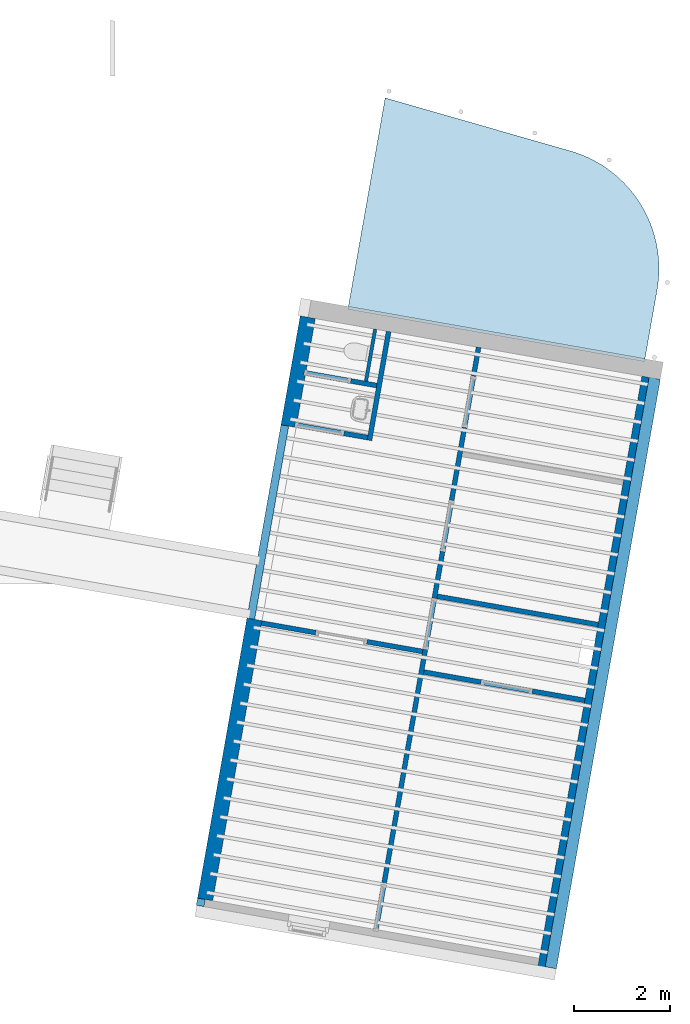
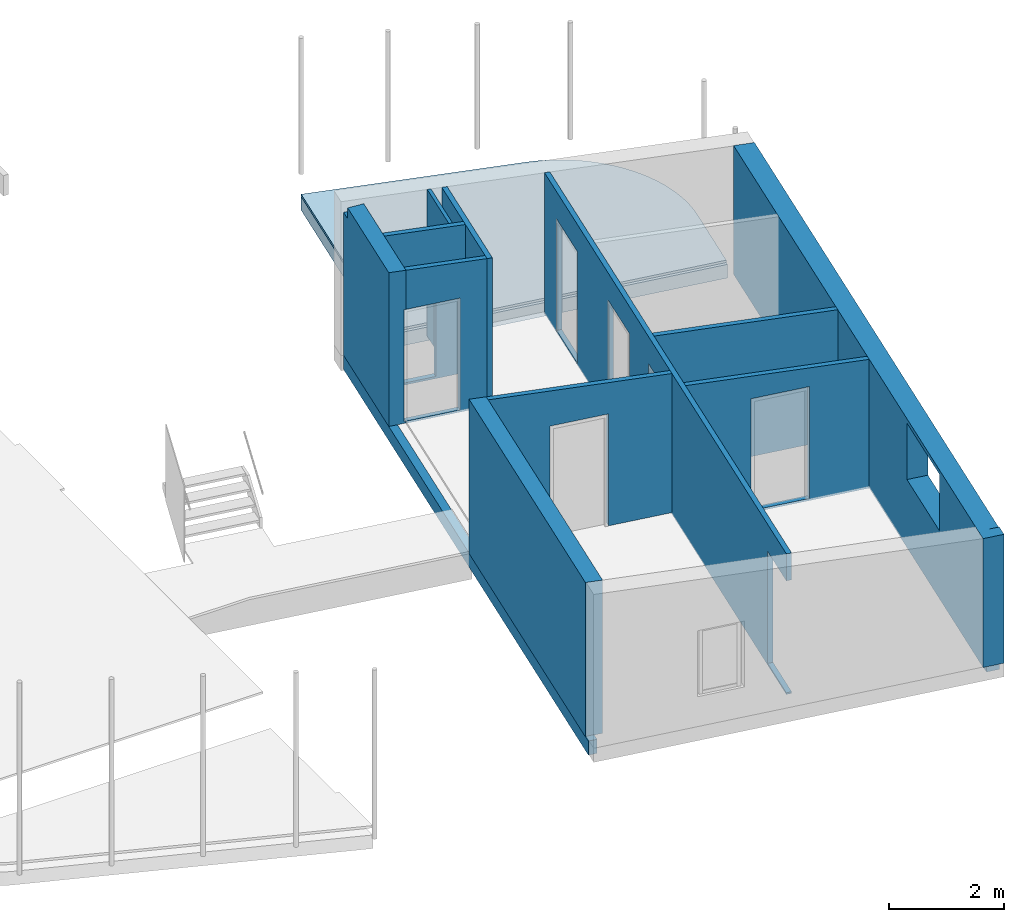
# One storey, part 3 of 7: 13 walls, 2 slabs, 18 openings.
"""IFC2X3 building model written with IfcOpenShell, lengths in millimetres."""

from ifc_helpers import new_model, entity, si_unit, converted_unit, derived_unit, direction, frame, frame_2d, origin, origin_2d_with_axis, place, context, subcontext, project, spatial, polyline, circle_curve, parameter, trimmed, segment, composite_curve, rectangle, outline, extrude, clip, bounded_halfspace, material, layer, layer_set, layer_usage, type_object, element, save


model = new_model("IFC2X3")

# Units and contexts
model_context = context("Model", 3, precision=0.01, world=origin(), true_north=direction((6.12303176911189e-17, 1.0)))
body_context = subcontext(model_context, "Body", "Model", "MODEL_VIEW")
ifc_project = project(units=[si_unit("LENGTHUNIT", "METRE", prefix="MILLI"), si_unit("AREAUNIT", "SQUARE_METRE"), si_unit("VOLUMEUNIT", "CUBIC_METRE"), converted_unit("PLANEANGLEUNIT", "DEGREE", entity("IfcRatioMeasure", 0.0174532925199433), si_unit("PLANEANGLEUNIT", "RADIAN"), dimensions=[0, 0, 0, 0, 0, 0, 0]), si_unit("MASSUNIT", "GRAM", prefix="KILO"), derived_unit("MASSDENSITYUNIT", [(si_unit("MASSUNIT", "GRAM", prefix="KILO"), 1), (si_unit("LENGTHUNIT", "METRE"), -3)]), derived_unit("MOMENTOFINERTIAUNIT", [(si_unit("LENGTHUNIT", "METRE"), 4)]), si_unit("TIMEUNIT", "SECOND"), si_unit("FREQUENCYUNIT", "HERTZ"), si_unit("THERMODYNAMICTEMPERATUREUNIT", "DEGREE_CELSIUS"), derived_unit("THERMALTRANSMITTANCEUNIT", [(si_unit("MASSUNIT", "GRAM", prefix="KILO"), 1), (si_unit("THERMODYNAMICTEMPERATUREUNIT", "KELVIN"), -1), (si_unit("TIMEUNIT", "SECOND"), -3)]), derived_unit("VOLUMETRICFLOWRATEUNIT", [(si_unit("LENGTHUNIT", "METRE"), 3), (si_unit("TIMEUNIT", "SECOND"), -1)]), si_unit("ELECTRICCURRENTUNIT", "AMPERE"), si_unit("ELECTRICVOLTAGEUNIT", "VOLT"), si_unit("POWERUNIT", "WATT"), si_unit("FORCEUNIT", "NEWTON", prefix="KILO"), si_unit("ILLUMINANCEUNIT", "LUX"), si_unit("LUMINOUSFLUXUNIT", "LUMEN"), si_unit("LUMINOUSINTENSITYUNIT", "CANDELA"), derived_unit("USERDEFINED", [(si_unit("MASSUNIT", "GRAM", prefix="KILO"), -1), (si_unit("LENGTHUNIT", "METRE"), -2), (si_unit("TIMEUNIT", "SECOND"), 3), (si_unit("LUMINOUSFLUXUNIT", "LUMEN"), 1)]), derived_unit("LINEARVELOCITYUNIT", [(si_unit("LENGTHUNIT", "METRE"), 1), (si_unit("TIMEUNIT", "SECOND"), -1)]), si_unit("PRESSUREUNIT", "PASCAL"), derived_unit("USERDEFINED", [(si_unit("LENGTHUNIT", "METRE"), -2), (si_unit("MASSUNIT", "GRAM", prefix="KILO"), 1), (si_unit("TIMEUNIT", "SECOND"), -2)]), derived_unit("LINEARFORCEUNIT", [(si_unit("MASSUNIT", "GRAM", prefix="KILO"), 1), (si_unit("LENGTHUNIT", "METRE"), 1), (si_unit("TIMEUNIT", "SECOND"), -2), (si_unit("LENGTHUNIT", "METRE"), -1)]), derived_unit("PLANARFORCEUNIT", [(si_unit("MASSUNIT", "GRAM", prefix="KILO"), 1), (si_unit("LENGTHUNIT", "METRE"), 1), (si_unit("TIMEUNIT", "SECOND"), -2), (si_unit("LENGTHUNIT", "METRE"), -2)])], contexts=[model_context])

# Site, building, storey
site_placement = place(None, origin())
site = spatial("IfcSite", under=ifc_project, at=site_placement, Name="<Kadaster Gemeente>;<Kadaster nummer>;<Kadaster sectie>", CompositionType="ELEMENT")
building_placement = place(site_placement, origin())
building = spatial("IfcBuilding", under=site, at=building_placement, Name="JRCZ Middelburg", CompositionType="ELEMENT")
storey_placement = place(building_placement, frame((0.0, 0.0, 3000.0)))
storey = spatial("IfcBuildingStorey", under=building, at=storey_placement, Name="01 eerste verdieping", CompositionType="ELEMENT", Elevation=3000.0)

# Slabs
ifc_material_1 = material(Name="ISR_Multiplex")
ifc_layer_1 = layer(ifc_material_1, 18.0)
ifc_material_2 = material(Name="RBM_i2_hout_vuren_gen")
ifc_layer_2 = layer(ifc_material_2, 271.0)
ifc_layer_set_1 = layer_set([ifc_layer_1, ifc_layer_2], Name="Floor:RBM_23_FL_balklaag dak_71x271, h.o.h. 400")
ifc_layer_usage_1 = layer_usage(ifc_layer_set_1, "AXIS3", "POSITIVE", 0.0)
slab_type_1 = type_object("IfcSlabType", Name="Floor:RBM_23_FL_balklaag dak_71x271, h.o.h. 400", PredefinedType="FLOOR", material=ifc_layer_set_1)
slab_1_placement = place(storey_placement, origin())
element("IfcSlab", 1, at=slab_1_placement, inside=storey, type_object=slab_type_1, material=ifc_layer_usage_1, Name="Floor:RBM_23_FL_balklaag dak_71x271, h.o.h. 400", ObjectType="Floor:RBM_23_FL_balklaag dak_71x271, h.o.h. 400", PredefinedType="FLOOR", context=body_context, shape_type="SweptSolid", body=[
    extrude(outline(composite_curve([segment(polyline([(-3542.44104935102, -2102.1862902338), (465.190872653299, -2102.1862902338)]), True, "CONTINUOUS"), segment(trimmed(circle_curve(frame_2d((465.190872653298, 443.651935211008), x_axis=(0.0, -1.0)), 2545.8382254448), [parameter(0.0)], [parameter(84.0)], True, "PARAMETER"), True, "CONTINUOUS"), segment(polyline([(2997.08272992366, 177.539377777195), (3155.6241373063, 1685.9601087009)]), True, "CONTINUOUS"), segment(polyline([(3155.6241373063, 1685.9601087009), (-3075.45669053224, 2340.87309398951)]), True, "CONTINUOUS"), segment(polyline([(-3075.45669053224, 2340.87309398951), (-3542.44104935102, -2102.1862902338)]), True, "CONTINUOUS")], self_intersect=False)), frame((28480.270626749, 20728.8070958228, -35.0), z_axis=(0.0, 0.0, -1.0), x_axis=(0.961261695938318, -0.275637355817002, 0.0)), (0.0, 0.0, 1.0), 289.0),
])
ifc_material_3 = material(Name="RBM_n7_dakisolatie_gen")
ifc_layer_3 = layer(ifc_material_3, 50.0)
ifc_layer_set_2 = layer_set([ifc_layer_3], Name="Floor:RBM_23_FL_dakisolatie 30 mm")
ifc_layer_usage_2 = layer_usage(ifc_layer_set_2, "AXIS3", "POSITIVE", 0.0)
slab_type_2 = type_object("IfcSlabType", Name="Floor:RBM_23_FL_dakisolatie 30 mm", PredefinedType="FLOOR", material=ifc_layer_set_2)
slab_2_placement = place(storey_placement, origin())
element("IfcSlab", 2, at=slab_2_placement, inside=storey, type_object=slab_type_2, material=ifc_layer_usage_2, Name="Floor:RBM_23_FL_dakisolatie 30 mm", ObjectType="Floor:RBM_23_FL_dakisolatie 30 mm", PredefinedType="FLOOR", context=body_context, shape_type="SweptSolid", body=[
    extrude(outline(composite_curve([segment(polyline([(-3539.93236638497, -2078.31776464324), (467.699555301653, -2078.31776464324)]), True, "CONTINUOUS"), segment(trimmed(circle_curve(frame_2d((467.699555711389, 467.520460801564), x_axis=(0.0, -1.0)), 2545.8382254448), [parameter(0.0)], [parameter(83.9999999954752)], True, "PARAMETER"), True, "CONTINUOUS"), segment(polyline([(2999.59141291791, 201.407902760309), (3151.86111275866, 1650.15732013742)]), True, "CONTINUOUS"), segment(polyline([(3151.86111275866, 1650.15732013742), (-3079.21971459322, 2305.07030638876)]), True, "CONTINUOUS"), segment(polyline([(-3079.21971459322, 2305.07030638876), (-3539.93236638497, -2078.31776464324)]), True, "CONTINUOUS")], self_intersect=False)), frame((28484.4381831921, 20752.4424820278, 15.0), z_axis=(0.0, 0.0, -1.0), x_axis=(0.961261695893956, -0.275637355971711, 0.0)), (0.0, 0.0, 1.0), 50.0),
])

# Wall, openings
ifc_material_4 = material(Name="RBM_f7_gips_beplating wand")
ifc_layer_4 = layer(ifc_material_4, 12.5)
ifc_material_5 = material(Name="RBM_i4_multiplex_beplating")
ifc_layer_5 = layer(ifc_material_5, 18.0)
ifc_material_6 = material(Name="RBM_n7_isolatie_hsb_270")
ifc_layer_6 = layer(ifc_material_6, 270.0)
ifc_layer_7 = layer(ifc_material_5, 18.0)
ifc_layer_set_3 = layer_set([ifc_layer_4, ifc_layer_5, ifc_layer_6, ifc_layer_7], Name="Basic Wall:22_hsb_binnenwand_gips_318,5mm")
ifc_layer_usage_3 = layer_usage(ifc_layer_set_3, "AXIS2", "NEGATIVE", 159.25)
wall_type_1 = type_object("IfcWallType", Name="Basic Wall:22_hsb_binnenwand_gips_318,5mm", PredefinedType="STANDARD", material=ifc_layer_set_3)
wall_1_placement = place(storey_placement, frame((21908.3733252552, 7049.61056927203, -45.0), z_axis=(0.0, 0.0, 1.0), x_axis=(0.17364817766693, 0.984807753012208, 0.0)))
wall_1 = element("IfcWallStandardCase", 3, at=wall_1_placement, inside=storey, type_object=wall_type_1, material=ifc_layer_usage_3, Name="Basic Wall:22_hsb_binnenwand_gips_318,5mm", ObjectType="Basic Wall:22_hsb_binnenwand_gips_318,5mm", context=body_context, shape_type="Clipping", body=[
    clip(extrude(rectangle(XDim=5915.99999999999, YDim=318.5, at=frame_2d((2957.99999999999, 1.52056145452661e-12), x_axis=(-1.0, 0.0))), origin(), (0.0, 0.0, 1.0), 3276.7387620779), bounded_halfspace(frame((0.0, -159.250000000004, 3252.85126207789), z_axis=(0.0, 0.0747899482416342, -0.997199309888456), x_axis=(0.0, 0.997199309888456, 0.0747899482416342)), True, frame((0.0, -159.250000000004, 3252.85126207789)), polyline([(0.0, 0.0), (5816.0, 0.0), (5916.0, 0.0), (5916.0, 318.500000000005), (0.0, 318.500000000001), (0.0, 306.0), (0.0, 0.0)]))),
])
opening_1_placement = place(wall_1_placement, origin())
element("IfcOpeningElement", 4, at=opening_1_placement, cuts=wall_1, Name="Basic Wall:22_hsb_binnenwand_gips_318,5mm", ObjectType="Opening", context=body_context, shape_type="SweptSolid", body=[
    extrude(rectangle(XDim=2377.0, YDim=100.0, at=frame_2d((-1.442401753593e-12, 0.0), x_axis=(0.0, 1.0))), frame((10050.0, -1161.25000000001, 1233.5), z_axis=(0.0, 1.0, 0.0), x_axis=(1.0, 0.0, 0.0)), (0.0, 0.0, 1.0), 1034.0),
])
opening_2_placement = place(wall_1_placement, origin())
element("IfcOpeningElement", 5, at=opening_2_placement, cuts=wall_1, Name="Basic Wall:22_hsb_binnenwand_gips_318,5mm", ObjectType="Opening", context=body_context, shape_type="SweptSolid", body=[
    extrude(rectangle(XDim=2377.0, YDim=100.0, at=frame_2d((1.442401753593e-12, 0.0), x_axis=(0.0, 1.0))), frame((11150.0, -1111.25, 1233.5), z_axis=(0.0, 1.0, 0.0), x_axis=(1.0, 0.0, 0.0)), (0.0, 0.0, 1.0), 984.000000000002),
])

ifc_layer_usage_4 = layer_usage(ifc_layer_set_3, "AXIS2", "NEGATIVE", 159.25)
wall_2_placement = place(storey_placement, frame((23644.8551019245, 16897.6880993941, -35.0), z_axis=(0.0, 0.0, 1.0), x_axis=(0.173648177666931, 0.984807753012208, 0.0)))
wall_2 = element("IfcWallStandardCase", 6, at=wall_2_placement, inside=storey, type_object=wall_type_1, material=ifc_layer_usage_4, Name="Basic Wall:22_hsb_binnenwand_gips_318,5mm", ObjectType="Basic Wall:22_hsb_binnenwand_gips_318,5mm", context=body_context, shape_type="Clipping", body=[
    clip(clip(extrude(rectangle(XDim=2300.00000000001, YDim=318.5, at=frame_2d((1150.00000000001, -1.12265752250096e-12), x_axis=(-1.0, 0.0))), origin(), (0.0, 0.0, 1.0), 3266.7387620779), bounded_halfspace(frame((0.0, 159.249999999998, 3266.7387620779), z_axis=(0.0, 0.0747899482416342, -0.997199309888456), x_axis=(0.0, 0.997199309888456, 0.0747899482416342)), True, frame((0.0, 159.249999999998, 3266.7387620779)), polyline([(0.0, 0.0), (0.0, -318.500000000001), (100.0, -318.500000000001), (1100.0, -318.500000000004), (1200.0, -318.500000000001), (2146.5766962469, -318.499999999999), (2131.40141689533, -232.436714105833), (2090.41655289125, 0.0), (0.0, 0.0)]))), bounded_halfspace(frame((2146.57669624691, -159.250000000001, 3035.0), z_axis=(0.0, 0.0, 1.0), x_axis=(0.0, 1.0, 0.0)), False, frame((2146.57669624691, -159.250000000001, 3035.0)), polyline([(0.0, 0.0), (153.423303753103, 0.0), (153.423303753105, 318.500000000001), (-56.1601433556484, 318.500000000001), (0.0, 0.0)]))),
])
opening_3_placement = place(wall_2_placement, origin())
element("IfcOpeningElement", 7, at=opening_3_placement, cuts=wall_2, Name="Basic Wall:22_hsb_binnenwand_gips_318,5mm", ObjectType="Opening", context=body_context, shape_type="SweptSolid", body=[
    extrude(rectangle(XDim=2377.0, YDim=100.0, at=frame_2d((-1.442401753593e-12, 0.0), x_axis=(0.0, 1.0))), frame((50.0, -1161.25000000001, 1223.5), z_axis=(0.0, 1.0, 0.0), x_axis=(1.0, 0.0, 0.0)), (0.0, 0.0, 1.0), 1034.0),
])
opening_4_placement = place(wall_2_placement, origin())
element("IfcOpeningElement", 8, at=opening_4_placement, cuts=wall_2, Name="Basic Wall:22_hsb_binnenwand_gips_318,5mm", ObjectType="Opening", context=body_context, shape_type="SweptSolid", body=[
    extrude(rectangle(XDim=2377.0, YDim=100.0, at=frame_2d((1.442401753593e-12, 0.0), x_axis=(0.0, 1.0))), frame((1150.0, -1111.25, 1223.5), z_axis=(0.0, 1.0, 0.0), x_axis=(1.0, 0.0, 0.0)), (0.0, 0.0, 1.0), 984.000000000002),
])

ifc_material_7 = material(Name="RBM_n7_isolatie_hsb_100")
ifc_layer_8 = layer(ifc_material_7, 100.0)
ifc_layer_set_4 = layer_set([ifc_layer_8], Name="Basic Wall:22_WA_metalstud_binnenwand_100mm")
ifc_layer_usage_5 = layer_usage(ifc_layer_set_4, "AXIS2", "NEGATIVE", 50.0)
wall_type_2 = type_object("IfcWallType", Name="Basic Wall:22_WA_metalstud_binnenwand_100mm", PredefinedType="STANDARD", material=ifc_layer_set_4)
wall_3_placement = place(storey_placement, frame((25462.7907078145, 6422.87088402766, -35.0), z_axis=(0.0, 0.0, 1.0), x_axis=(0.17364817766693, 0.984807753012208, 0.0)))
wall_3 = element("IfcWallStandardCase", 9, at=wall_3_placement, inside=storey, type_object=wall_type_2, material=ifc_layer_usage_5, Name="Basic Wall:22_WA_metalstud_binnenwand_100mm", ObjectType="Basic Wall:22_WA_metalstud_binnenwand_100mm", context=body_context, shape_type="Clipping", body=[
    clip(extrude(rectangle(XDim=12300.0, YDim=99.9999999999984, at=frame_2d((6149.99999999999, -5.18696197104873e-13), x_axis=(-1.0, 0.0))), origin(), (0.0, 0.0, 1.0), 2987.8512620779), bounded_halfspace(frame((0.0, -50.0, 2980.3512620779), z_axis=(0.0, 0.0747899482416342, -0.997199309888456), x_axis=(0.0, 0.997199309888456, 0.0747899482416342)), True, frame((0.0, -50.0, 2980.3512620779)), polyline([(0.0, 0.0), (5400.0, 0.0), (5500.0, 0.0), (7000.0, 0.0), (7100.0, 0.0), (10000.0, 0.0), (10100.0, 0.0), (12300.0, 0.0), (12300.0, 100.0), (5916.0, 100.0), (5816.0, 100.0), (0.0, 100.0), (0.0, 0.0)]))),
])
opening_5_placement = place(wall_3_placement, origin())
element("IfcOpeningElement", 10, at=opening_5_placement, cuts=wall_3, Name="Basic Wall:22_WA_metalstud_binnenwand_100mm", ObjectType="Opening", context=body_context, shape_type="SweptSolid", body=[
    extrude(rectangle(XDim=2377.0, YDim=100.0, at=frame_2d((1.442401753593e-12, 4.54747350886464e-13), x_axis=(0.0, 1.0))), frame((5866.0, 1224.0, 1223.5), z_axis=(0.0, 1.0, 0.0), x_axis=(-1.0, 0.0, 0.0)), (0.0, 0.0, 1.0), 1084.0),
])
opening_6_placement = place(wall_3_placement, origin())
element("IfcOpeningElement", 11, at=opening_6_placement, cuts=wall_3, Name="Basic Wall:22_WA_metalstud_binnenwand_100mm", ObjectType="Opening", context=body_context, shape_type="SweptSolid", body=[
    extrude(rectangle(XDim=2377.0, YDim=100.0, at=frame_2d((1.442401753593e-12, 4.54747350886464e-13), x_axis=(0.0, 1.0))), frame((5450.0, -2342.0, 1223.5), z_axis=(0.0, 1.0, 0.0), x_axis=(-1.0, 0.0, 0.0)), (0.0, 0.0, 1.0), 1083.99999999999),
])
opening_7_placement = place(wall_3_placement, frame((-10746.8602479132, 23960.6338779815, 35.0), z_axis=(0.0, 0.0, 1.0), x_axis=(0.17364817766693, -0.984807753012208, 0.0)))
element("IfcOpeningElement", 12, at=opening_7_placement, cuts=wall_3, Name="Basic Wall:22_WA_metalstud_binnenwand_100mm", ObjectType="Opening", context=body_context, shape_type="SweptSolid", body=[
    extrude(rectangle(XDim=2377.0, YDim=984.0, at=frame_2d((0.0, 4.54747350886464e-13), x_axis=(0.0, 1.0))), frame((27092.4089764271, 6600.59060325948, 1188.5), z_axis=(-0.984807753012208, 0.173648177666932, 0.0), x_axis=(-0.173648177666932, -0.984807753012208, 0.0)), (0.0, 0.0, 1.0), 3048.0),
])
opening_8_placement = place(wall_3_placement, frame((-10746.8602479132, 23960.6338779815, 35.0), z_axis=(0.0, 0.0, 1.0), x_axis=(0.17364817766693, -0.984807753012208, 0.0)))
element("IfcOpeningElement", 13, at=opening_8_placement, cuts=wall_3, Name="Basic Wall:22_WA_metalstud_binnenwand_100mm", ObjectType="Opening", context=body_context, shape_type="SweptSolid", body=[
    extrude(rectangle(XDim=2377.0, YDim=1084.0, at=frame_2d((1.4210854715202e-12, 4.54747350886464e-13), x_axis=(0.0, 1.0))), frame((28134.2980424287, 12509.4371213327, 1188.5), z_axis=(-0.984807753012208, 0.17364817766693, 0.0), x_axis=(-0.17364817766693, -0.984807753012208, 0.0)), (0.0, 0.0, 1.0), 3048.0),
])
opening_9_placement = place(wall_3_placement, frame((-10746.8602479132, 23960.6338779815, 35.0), z_axis=(0.0, 0.0, 1.0), x_axis=(0.17364817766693, -0.984807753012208, 0.0)))
element("IfcOpeningElement", 14, at=opening_9_placement, cuts=wall_3, Name="Basic Wall:22_WA_metalstud_binnenwand_100mm", ObjectType="Opening", context=body_context, shape_type="SweptSolid", body=[
    extrude(rectangle(XDim=2377.0, YDim=1084.0, at=frame_2d((0.0, 1.4210854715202e-12), x_axis=(1.0, 0.0))), frame((28493.7497701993, 14547.989170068, 1188.5), z_axis=(-0.984807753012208, 0.17364817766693, 0.0), x_axis=(0.0, 0.0, 1.0)), (0.0, 0.0, 1.0), 3048.0),
])
opening_10_placement = place(wall_3_placement, frame((-10746.8602479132, 23960.6338779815, 35.0), z_axis=(0.0, 0.0, 1.0), x_axis=(0.17364817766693, -0.984807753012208, 0.0)))
element("IfcOpeningElement", 15, at=opening_10_placement, cuts=wall_3, Name="Basic Wall:22_WA_metalstud_binnenwand_100mm", ObjectType="Opening", context=body_context, shape_type="SweptSolid", body=[
    extrude(rectangle(XDim=2377.0, YDim=1084.0, at=frame_2d((0.0, -1.4210854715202e-12), x_axis=(1.0, 0.0))), frame((28949.055292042, 17130.155098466, 1188.5), z_axis=(-0.984807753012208, 0.17364817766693, 0.0), x_axis=(0.0, 0.0, 1.0)), (0.0, 0.0, 1.0), 3048.0),
])

# Wall, opening
ifc_layer_usage_6 = layer_usage(ifc_layer_set_4, "AXIS2", "NEGATIVE", 50.0)
wall_4_placement = place(storey_placement, frame((23083.8241701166, 12798.8393761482, 0.0), z_axis=(0.0, 0.0, 1.0), x_axis=(0.984807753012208, -0.173648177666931, 0.0)))
wall_4 = element("IfcWallStandardCase", 16, at=wall_4_placement, inside=storey, type_object=wall_type_2, material=ifc_layer_usage_6, Name="Basic Wall:22_WA_metalstud_binnenwand_100mm", ObjectType="Basic Wall:22_WA_metalstud_binnenwand_100mm", context=body_context, shape_type="Clipping", body=[
    clip(extrude(rectangle(XDim=3400.00000000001, YDim=99.9999999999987, at=frame_2d((1700.0, -7.105427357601e-14), x_axis=(-1.0, 0.0))), origin(), (0.0, 0.0, 1.0), 3207.8512620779), bounded_halfspace(frame((0.0, -50.0, 3207.8512620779), z_axis=(-0.0747899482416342, 0.0, -0.997199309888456), x_axis=(-0.997199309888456, 0.0, 0.0747899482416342)), True, frame((0.0, -50.0, 3207.8512620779)), polyline([(0.0, 0.0), (3400.0, 0.0), (3400.0, 100.0), (0.0, 100.0), (0.0, 0.0)]))),
])
opening_11_placement = place(wall_4_placement, frame((-20510.6338779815, -16612.8602479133, 0.0), z_axis=(0.0, 0.0, 1.0), x_axis=(0.984807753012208, 0.173648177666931, 0.0)))
element("IfcOpeningElement", 17, at=opening_11_placement, cuts=wall_4, Name="Basic Wall:22_WA_metalstud_binnenwand_100mm", ObjectType="Opening", context=body_context, shape_type="SweptSolid", body=[
    extrude(rectangle(XDim=2377.0, YDim=1084.0, at=frame_2d((0.0, -2.1600499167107e-12), x_axis=(1.0, 0.0))), frame((24468.9181945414, 10956.3284417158, 1188.5), z_axis=(0.173648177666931, 0.984807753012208, 0.0), x_axis=(0.0, 0.0, 1.0)), (0.0, 0.0, 1.0), 3048.0),
])

ifc_layer_usage_7 = layer_usage(ifc_layer_set_4, "AXIS2", "NEGATIVE", 50.0)
wall_5_placement = place(storey_placement, frame((26458.4136637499, 11781.3907290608, -45.0), z_axis=(0.0, 0.0, 1.0), x_axis=(0.984807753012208, -0.173648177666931, 0.0)))
wall_5 = element("IfcWallStandardCase", 18, at=wall_5_placement, inside=storey, type_object=wall_type_2, material=ifc_layer_usage_7, Name="Basic Wall:22_WA_metalstud_binnenwand_100mm", ObjectType="Basic Wall:22_WA_metalstud_binnenwand_100mm", context=body_context, shape_type="Clipping", body=[
    clip(extrude(rectangle(XDim=3400.00000000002, YDim=99.9999999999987, at=frame_2d((1700.00000000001, 3.33955085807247e-13), x_axis=(-1.0, 0.0))), origin(), (0.0, 0.0, 1.0), 2990.3512620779), bounded_halfspace(frame((0.0, -50.0, 2990.3512620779), z_axis=(-0.0747899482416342, 0.0, -0.997199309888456), x_axis=(-0.997199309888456, 0.0, 0.0747899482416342)), True, frame((0.0, -50.0, 2990.3512620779)), polyline([(0.0, 0.0), (3400.0, 0.0), (3400.0, 100.0), (0.0, 100.0), (0.0, 0.0)]))),
])
opening_12_placement = place(wall_5_placement, frame((-24010.6338779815, -16196.8602479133, 45.0), z_axis=(0.0, 0.0, 1.0), x_axis=(0.984807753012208, 0.173648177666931, 0.0)))
element("IfcOpeningElement", 19, at=opening_12_placement, cuts=wall_5, Name="Basic Wall:22_WA_metalstud_binnenwand_100mm", ObjectType="Opening", context=body_context, shape_type="SweptSolid", body=[
    extrude(rectangle(XDim=2377.0, YDim=1084.0, at=frame_2d((0.0, -2.1600499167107e-12), x_axis=(1.0, 0.0))), frame((27908.5049998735, 9927.41901490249, 1188.5), z_axis=(0.173648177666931, 0.984807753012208, 0.0), x_axis=(0.0, 0.0, 1.0)), (0.0, 0.0, 1.0), 3048.0),
])

# Walls
ifc_layer_usage_8 = layer_usage(ifc_layer_set_4, "AXIS2", "NEGATIVE", 50.0)
wall_6_placement = place(storey_placement, frame((26736.2507480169, 13357.0831338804, -45.0), z_axis=(0.0, 0.0, 1.0), x_axis=(0.984807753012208, -0.17364817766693, 0.0)))
element("IfcWallStandardCase", 20, at=wall_6_placement, inside=storey, type_object=wall_type_2, material=ifc_layer_usage_8, Name="Basic Wall:22_WA_metalstud_binnenwand_100mm", ObjectType="Basic Wall:22_WA_metalstud_binnenwand_100mm", context=body_context, shape_type="Clipping", body=[
    clip(extrude(rectangle(XDim=3400.00000000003, YDim=99.9999999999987, at=frame_2d((1700.00000000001, -2.70006239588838e-13), x_axis=(-1.0, 0.0))), origin(), (0.0, 0.0, 1.0), 2990.3512620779), bounded_halfspace(frame((0.0, -50.0, 2990.3512620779), z_axis=(-0.0747899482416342, 0.0, -0.997199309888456), x_axis=(-0.997199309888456, 0.0, 0.0747899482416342)), True, frame((0.0, -50.0, 2990.3512620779)), polyline([(0.0, 0.0), (3400.0, 0.0), (3400.0, 100.0), (0.0, 100.0), (0.0, 0.0)]))),
])
ifc_layer_usage_9 = layer_usage(ifc_layer_set_4, "AXIS2", "NEGATIVE", 50.0)
wall_7_placement = place(storey_placement, frame((25328.1377537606, 16600.8799517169, -35.0), z_axis=(0.0, 0.0, 1.0), x_axis=(0.17364817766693, 0.984807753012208, 0.0)))
element("IfcWallStandardCase", 21, at=wall_7_placement, inside=storey, type_object=wall_type_2, material=ifc_layer_usage_9, Name="Basic Wall:22_WA_metalstud_binnenwand_100mm", ObjectType="Basic Wall:22_WA_metalstud_binnenwand_100mm", context=body_context, shape_type="Clipping", body=[
    clip(extrude(rectangle(XDim=2299.99999999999, YDim=99.9999999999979, at=frame_2d((1150.0, 8.17124146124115e-14), x_axis=(-1.0, 0.0))), origin(), (0.0, 0.0, 1.0), 3130.3512620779), bounded_halfspace(frame((0.0, -50.0, 3122.8512620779), z_axis=(0.0, 0.0747899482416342, -0.997199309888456), x_axis=(0.0, 0.997199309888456, 0.0747899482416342)), True, frame((0.0, -50.0, 3122.8512620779)), polyline([(0.0, 0.0), (2300.0, 0.0), (2300.0, 100.0), (1200.0, 100.0), (1100.0, 100.0), (100.0, 100.0), (0.0, 100.0), (0.0, 0.0)]))),
])

# Wall, opening
ifc_layer_usage_10 = layer_usage(ifc_layer_set_4, "AXIS2", "NEGATIVE", 50.0)
wall_8_placement = place(storey_placement, frame((25478.5927704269, 17742.0912765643, -45.0), z_axis=(0.0, 0.0, 1.0), x_axis=(-0.984807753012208, 0.173648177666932, 0.0)))
wall_8 = element("IfcWallStandardCase", 22, at=wall_8_placement, inside=storey, type_object=wall_type_2, material=ifc_layer_usage_10, Name="Basic Wall:22_WA_metalstud_binnenwand_100mm", ObjectType="Basic Wall:22_WA_metalstud_binnenwand_100mm", context=body_context, shape_type="Clipping", body=[
    clip(extrude(rectangle(XDim=1500.0, YDim=99.9999999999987, at=frame_2d((749.999999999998, -7.105427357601e-14), x_axis=(-1.0, 0.0))), origin(), (0.0, 0.0, 1.0), 3252.8512620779), bounded_halfspace(frame((0.0, -50.0, 3140.3512620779), z_axis=(0.0747899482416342, 0.0, -0.997199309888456), x_axis=(0.997199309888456, 0.0, 0.0747899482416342)), True, frame((0.0, -50.0, 3140.3512620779)), polyline([(0.0, 0.0), (200.0, 0.0), (270.0, 0.0), (1500.0, 0.0), (1500.0, 100.0), (0.0, 100.0), (0.0, 0.0)]))),
])
opening_13_placement = place(wall_8_placement, frame((22010.6338779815, 21896.8602479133, 45.0), z_axis=(0.0, 0.0, 1.0), x_axis=(-0.984807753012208, -0.173648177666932, 0.0)))
element("IfcOpeningElement", 23, at=opening_13_placement, cuts=wall_8, Name="Basic Wall:22_WA_metalstud_binnenwand_100mm", ObjectType="Opening", context=body_context, shape_type="SweptSolid", body=[
    extrude(rectangle(XDim=2377.0, YDim=984.0, at=frame_2d((0.0, 2.1316282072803e-12), x_axis=(1.0, 0.0))), frame((24727.714938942, 19472.7727845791, 1188.5), z_axis=(-0.173648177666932, -0.984807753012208, 0.0), x_axis=(0.0, 0.0, 1.0)), (0.0, 0.0, 1.0), 3048.0),
])

ifc_layer_usage_11 = layer_usage(ifc_layer_set_4, "AXIS2", "NEGATIVE", 50.0)
wall_9_placement = place(storey_placement, frame((25287.5797749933, 16658.8027482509, -45.0), z_axis=(0.0, 0.0, 1.0), x_axis=(-0.984807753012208, 0.173648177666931, 0.0)))
wall_9 = element("IfcWallStandardCase", 24, at=wall_9_placement, inside=storey, type_object=wall_type_2, material=ifc_layer_usage_11, Name="Basic Wall:22_WA_metalstud_binnenwand_100mm", ObjectType="Basic Wall:22_WA_metalstud_binnenwand_100mm", context=body_context, shape_type="Clipping", body=[
    clip(extrude(rectangle(XDim=1499.99999999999, YDim=99.9999999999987, at=frame_2d((749.999999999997, 5.04485342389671e-13), x_axis=(-1.0, 0.0))), origin(), (0.0, 0.0, 1.0), 3252.8512620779), bounded_halfspace(frame((0.0, -50.0, 3140.3512620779), z_axis=(0.0747899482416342, 0.0, -0.997199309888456), x_axis=(0.997199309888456, 0.0, 0.0747899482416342)), True, frame((0.0, -50.0, 3140.3512620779)), polyline([(0.0, 0.0), (1500.0, 0.0), (1500.0, 100.0), (0.0, 100.0), (0.0, 0.0)]))),
])
opening_14_placement = place(wall_9_placement, frame((22010.6338779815, 20796.8602479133, 45.0), z_axis=(0.0, 0.0, 1.0), x_axis=(-0.984807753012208, -0.173648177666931, 0.0)))
element("IfcOpeningElement", 25, at=opening_14_placement, cuts=wall_9, Name="Basic Wall:22_WA_metalstud_binnenwand_100mm", ObjectType="Opening", context=body_context, shape_type="SweptSolid", body=[
    extrude(rectangle(XDim=2377.0, YDim=1034.0, at=frame_2d((0.0, 2.33058017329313e-12), x_axis=(1.0, 0.0))), frame((24561.3221373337, 18385.143051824, 1188.5), z_axis=(-0.173648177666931, -0.984807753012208, 0.0), x_axis=(0.0, 0.0, 1.0)), (0.0, 0.0, 1.0), 3048.0),
])

# Wall, openings
ifc_material_8 = material(Name="Gevelafwerking")
ifc_layer_9 = layer(ifc_material_8, 30.0)
ifc_material_9 = material(Name="ISR_Luchtspouw")
ifc_layer_10 = layer(ifc_material_9, 35.0)
ifc_layer_11 = layer(ifc_material_9, 35.0)
ifc_layer_12 = layer(ifc_material_6, 270.0)
ifc_layer_13 = layer(ifc_material_5, 18.0)
ifc_layer_set_5 = layer_set([ifc_layer_9, ifc_layer_10, ifc_layer_11, ifc_layer_12, ifc_layer_13], Name="Basic Wall:21_RBM_WA_hsb_270mm_houten bekleding")
ifc_layer_usage_12 = layer_usage(ifc_layer_set_5, "AXIS2", "NEGATIVE", 194.0)
wall_type_3 = type_object("IfcWallType", Name="Basic Wall:21_RBM_WA_hsb_270mm_houten bekleding", PredefinedType="STANDARD", material=ifc_layer_set_5)
wall_10_placement = place(storey_placement, frame((31187.3027450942, 17903.2322866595, -45.0), z_axis=(0.0, 0.0, 1.0), x_axis=(-0.17364817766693, -0.984807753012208, 0.0)))
wall_10 = element("IfcWallStandardCase", 26, at=wall_10_placement, inside=storey, type_object=wall_type_3, material=ifc_layer_usage_12, Name="Basic Wall:21_RBM_WA_hsb_270mm_houten bekleding", ObjectType="Basic Wall:21_RBM_WA_hsb_270mm_houten bekleding", context=body_context, shape_type="Clipping", body=[
    clip(extrude(rectangle(XDim=12688.0, YDim=387.999999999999, at=frame_2d((6344.0, 7.105427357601e-14), x_axis=(-1.0, 0.0))), origin(), (0.0, 0.0, 1.0), 2735.3512620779), bounded_halfspace(frame((12450.0, -194.0, 2735.35126207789), z_axis=(0.0, -0.0747899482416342, -0.997199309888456), x_axis=(0.0, -0.997199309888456, 0.0747899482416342)), True, frame((12450.0, -194.0, 2735.35126207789)), polyline([(0.0, 0.0), (0.0, 4.68349437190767), (0.0, 388.0), (-12450.0, 388.0), (-12450.0, 0.0), (-10250.0, 0.0), (-10150.0, 0.0), (-7250.0, 0.0), (-7150.0, 0.0), (-5650.0, 0.0), (-5550.0, 0.0), (-150.0, 0.0), (0.0, 0.0)]))),
])
opening_15_placement = place(wall_10_placement, origin())
element("IfcOpeningElement", 27, at=opening_15_placement, cuts=wall_10, Name="Basic Wall:21_RBM_WA_hsb_270mm_houten bekleding", ObjectType="Opening", context=body_context, shape_type="SweptSolid", body=[
    extrude(rectangle(XDim=1200.0, YDim=862.999999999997, at=frame_2d((0.0, -9.09494701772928e-13), x_axis=(1.0, 0.0))), frame((9250.0, -346.400000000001, 2045.0), z_axis=(0.0, 1.0, 0.0), x_axis=(0.0, 0.0, 1.0)), (0.0, 0.0, 1.0), 692.800000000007),
])
opening_16_placement = place(wall_10_placement, origin())
element("IfcOpeningElement", 28, at=opening_16_placement, cuts=wall_10, Name="Basic Wall:21_RBM_WA_hsb_270mm_houten bekleding", ObjectType="Opening", context=body_context, shape_type="SweptSolid", body=[
    extrude(rectangle(XDim=1200.0, YDim=774.999999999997, at=frame_2d((9.09494701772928e-13, 0.0), x_axis=(0.0, 1.0))), frame((9250.0, -346.400000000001, 2045.0), z_axis=(0.0, 1.0, 0.0), x_axis=(-1.0, 0.0, 0.0)), (0.0, 0.0, 1.0), 692.800000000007),
])
opening_17_placement = place(wall_10_placement, origin())
element("IfcOpeningElement", 29, at=opening_17_placement, cuts=wall_10, Name="Basic Wall:21_RBM_WA_hsb_270mm_houten bekleding", ObjectType="Opening", context=body_context, shape_type="SweptSolid", body=[
    extrude(rectangle(XDim=1200.0, YDim=774.999999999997, at=frame_2d((-9.09494701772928e-13, 0.0), x_axis=(0.0, 1.0))), frame((10050.0, -346.399999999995, 2045.0), z_axis=(0.0, 1.0, 0.0), x_axis=(-1.0, 0.0, 0.0)), (0.0, 0.0, 1.0), 692.799999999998),
])
opening_18_placement = place(wall_10_placement, origin())
element("IfcOpeningElement", 30, at=opening_18_placement, cuts=wall_10, Name="Basic Wall:21_RBM_WA_hsb_270mm_houten bekleding", ObjectType="Opening", context=body_context, shape_type="SweptSolid", body=[
    extrude(rectangle(XDim=1200.0, YDim=862.999999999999, at=origin_2d_with_axis()), frame((10050.0, -346.399999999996, 2045.0), z_axis=(0.0, 1.0, 0.0), x_axis=(0.0, 0.0, 1.0)), (0.0, 0.0, 1.0), 692.799999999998),
])

# Walls
ifc_layer_14 = layer(ifc_material_4, 12.5)
ifc_material_10 = material(Name="RBM_n7_isolatie_MS45")
ifc_layer_15 = layer(ifc_material_10, 45.0)
ifc_layer_16 = layer(ifc_material_4, 12.5)
ifc_layer_set_6 = layer_set([ifc_layer_14, ifc_layer_15, ifc_layer_16], Name="Basic Wall:22_RBM_WA_metalstud_70_12.5-45-12.5")
ifc_layer_usage_13 = layer_usage(ifc_layer_set_6, "AXIS2", "NEGATIVE", 35.0)
wall_type_4 = type_object("IfcWallType", Name="Basic Wall:22_RBM_WA_metalstud_70_12.5-45-12.5", PredefinedType="STANDARD", material=ifc_layer_set_6)
wall_11_placement = place(storey_placement, frame((25255.8453573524, 17832.1389859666, 0.0), z_axis=(0.0, 0.0, 1.0), x_axis=(0.173648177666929, 0.984807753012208, 0.0)))
element("IfcWallStandardCase", 31, at=wall_11_placement, inside=storey, type_object=wall_type_4, material=ifc_layer_usage_13, Name="Basic Wall:22_RBM_WA_metalstud_70_12.5-45-12.5", ObjectType="Basic Wall:22_RBM_WA_metalstud_70_12.5-45-12.5", context=body_context, shape_type="Clipping", body=[
    clip(extrude(rectangle(XDim=1100.0, YDim=70.0000000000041, at=frame_2d((550.000000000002, 8.17124146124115e-13), x_axis=(-1.0, 0.0))), origin(), (0.0, 0.0, 1.0), 3115.6012620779), bounded_halfspace(frame((0.0, -35.0, 3110.3512620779), z_axis=(0.0, 0.0747899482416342, -0.997199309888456), x_axis=(0.0, 0.997199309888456, 0.0747899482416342)), True, frame((0.0, -35.0, 3110.3512620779)), polyline([(0.0, 0.0), (1100.0, 0.0), (1100.0, 70.0), (0.0, 70.0), (0.0, 0.0)]))),
])
ifc_layer_17 = layer(ifc_material_8, 30.0)
ifc_layer_18 = layer(ifc_material_9, 35.0)
ifc_layer_19 = layer(ifc_material_9, 35.0)
ifc_material_11 = material(Name="RBM_n7_isolatie_hsb_invulling")
ifc_layer_20 = layer(ifc_material_11, 138.0)
ifc_layer_set_7 = layer_set([ifc_layer_17, ifc_layer_18, ifc_layer_19, ifc_layer_20], Name="Basic Wall:21_RBM_WA_passtrook_BU_houten bekleding")
ifc_layer_usage_14 = layer_usage(ifc_layer_set_7, "AXIS2", "NEGATIVE", 119.0)
wall_type_5 = type_object("IfcWallType", Name="Basic Wall:21_RBM_WA_passtrook_BU_houten bekleding", PredefinedType="STANDARD", material=ifc_layer_set_7)
wall_12_placement = place(storey_placement, frame((31324.7185595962, 18250.648310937, -334.0), z_axis=(0.0, 0.0, 1.0), x_axis=(-0.17364817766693, -0.984807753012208, 0.0)))
element("IfcWallStandardCase", 32, at=wall_12_placement, inside=storey, type_object=wall_type_5, material=ifc_layer_usage_14, Name="Basic Wall:21_RBM_WA_passtrook_BU_houten bekleding", ObjectType="Basic Wall:21_RBM_WA_passtrook_BU_houten bekleding", context=body_context, shape_type="Clipping", body=[
    clip(clip(extrude(rectangle(XDim=12816.0, YDim=238.000000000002, at=frame_2d((6408.0, 5.82645043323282e-13), x_axis=(-1.0, 0.0))), origin(), (0.0, 0.0, 1.0), 288.999999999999), bounded_halfspace(frame((366.0, 19.0, 289.0), z_axis=(0.0, -1.0, 0.0), x_axis=(1.0, 0.0, 0.0)), True, frame((366.0, 19.0, 289.0), z_axis=(0.0, -1.0, 0.0), x_axis=(1.0, 0.0, 0.0)), polyline([(0.0, 0.0), (-366.0, 0.0), (-366.0, -289.0), (-306.0, -289.0), (0.0, -289.0), (0.0, 0.0)]))), bounded_halfspace(frame((366.0, 19.0, 0.0), z_axis=(1.0, 0.0, 0.0), x_axis=(0.0, 1.0, 0.0)), True, frame((366.0, 19.0, 0.0), z_axis=(1.0, 0.0, 0.0), x_axis=(0.0, 1.0, 0.0)), polyline([(0.0, 0.0), (100.0, 0.0), (100.0, 289.0), (0.0, 289.0), (0.0, 0.0)]))),
])
ifc_layer_21 = layer(ifc_material_6, 132.0)
ifc_layer_22 = layer(ifc_material_5, 18.0)
ifc_layer_23 = layer(ifc_material_4, 12.5)
ifc_layer_set_8 = layer_set([ifc_layer_21, ifc_layer_22, ifc_layer_23], Name="Basic Wall:22_hsb_270 passtrook + gips")
ifc_layer_usage_15 = layer_usage(ifc_layer_set_8, "AXIS2", "POSITIVE", -81.25)
wall_type_6 = type_object("IfcWallType", Name="Basic Wall:22_hsb_270 passtrook + gips", PredefinedType="STANDARD", material=ifc_layer_set_8)
wall_13_placement = place(storey_placement, frame((21805.5110938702, 6915.43396417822, -334.0), z_axis=(0.0, 0.0, 1.0), x_axis=(0.17364817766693, 0.984807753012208, 0.0)))
element("IfcWallStandardCase", 33, at=wall_13_placement, inside=storey, type_object=wall_type_6, material=ifc_layer_usage_15, Name="Basic Wall:22_hsb_270 passtrook + gips", ObjectType="Basic Wall:22_hsb_270 passtrook + gips", context=body_context, shape_type="Clipping", body=[
    clip(extrude(rectangle(XDim=12450.0, YDim=162.499999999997, at=frame_2d((6225.0, 3.83693077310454e-13), x_axis=(-1.0, 0.0))), origin(), (0.0, 0.0, 1.0), 299.0), bounded_halfspace(frame((6066.0, -81.2500000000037, 289.0), z_axis=(0.0, 0.0, -1.0), x_axis=(0.0, 1.0, 0.0)), True, frame((6066.0, -81.2500000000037, 289.0), z_axis=(0.0, 0.0, -1.0), x_axis=(0.0, 1.0, 0.0)), polyline([(0.0, 0.0), (0.0, -5916.0), (162.50000000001, -5916.0), (162.500000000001, 0.0), (0.0, 0.0)]))),
])

save(model, "model.ifc")
